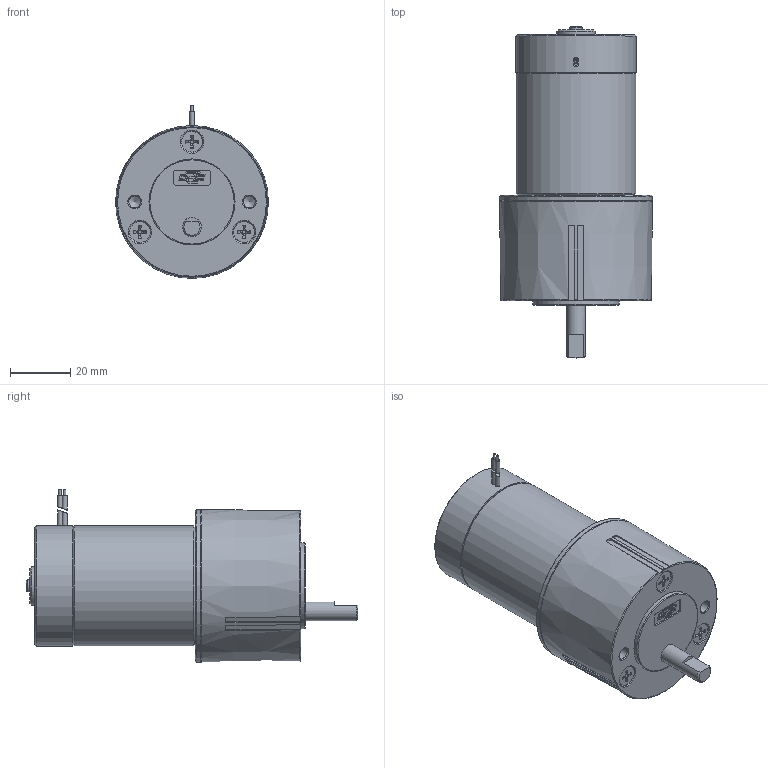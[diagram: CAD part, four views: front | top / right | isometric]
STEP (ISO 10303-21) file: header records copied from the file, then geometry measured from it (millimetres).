
FILE_DESCRIPTION((''),'2;1');
FILE_NAME('Z:\4_DC\새 폴더\RS4 SERIES\RS43ㅁㅁLㅁ.stp','2015-03-25T17:13:28',('kdhkdh'),(''),'Autodesk Inventor 2013','Autodesk Inventor 2013','');
FILE_SCHEMA(('AUTOMOTIVE_DESIGN { 1 0 10303 214 1 1 1 1 }'));
Length unit declared in the file: millimetre
Products named in the file (1): 부품2
Bounding box: 50.8 x 110.29 x 57.4 mm (x, y, z)
Volume: 138130.4 mm3; surface area: 17866.7 mm2
Topology: 2 solids, 4 shells, 365 faces, 946 edges, 615 vertices
Faces by surface type: plane 193, cylinder 105, cone 45, torus 22
Full cylindrical faces by diameter (mm): 0.76 x2, 1.56 x4, 2.8 x4, 3.5 x2, 3.7 x2, 3.962 x2, 4 x1, 6.34 x1, 6.9 x5, 7.8 x3, 12.7 x1, 28.575 x1, 40 x2, 50.8 x1
Entity records: 11520 total; most frequent: CARTESIAN_POINT 2953, ORIENTED_EDGE 1746, DIRECTION 1696, EDGE_CURVE 873, AXIS2_PLACEMENT_3D 633, VERTEX_POINT 596, EDGE_LOOP 453, VECTOR 430
